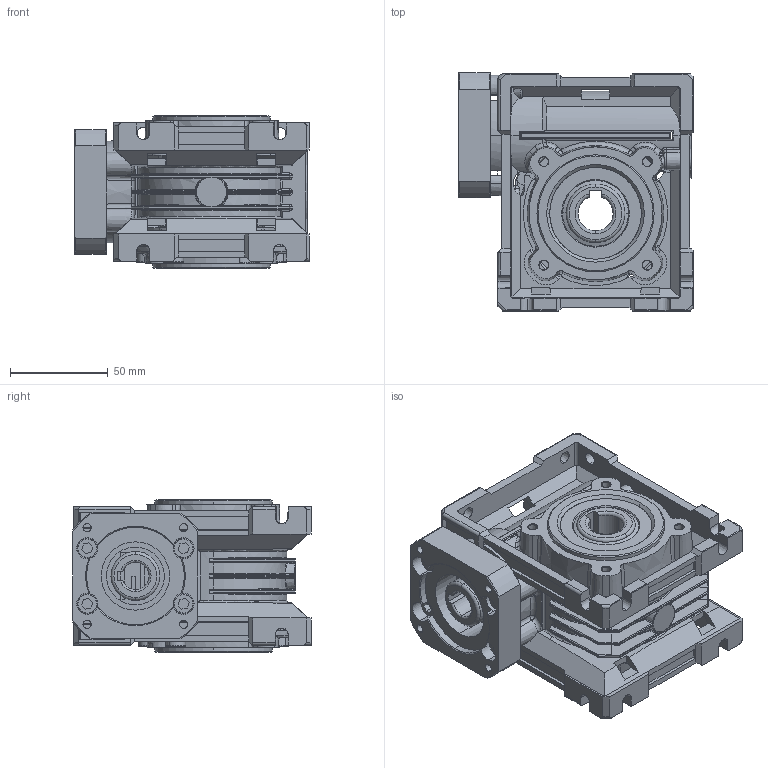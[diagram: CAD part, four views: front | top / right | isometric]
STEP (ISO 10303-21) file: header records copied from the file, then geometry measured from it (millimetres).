
FILE_DESCRIPTION (( 'STEP AP214' ), '1' );
FILE_NAME ('AF.00001406 Alleggerito.STEP', '2019-03-27T10:04:21', ( '' ), ( '' ), 'SwSTEP 2.0', 'SolidWorks 2018', '' );
FILE_SCHEMA (( 'AUTOMOTIVE_DESIGN' ));
Length unit declared in the file: millimetre
Products named in the file (1): AF.00001406 Alleggerito
Bounding box: 120 x 122 x 78 mm (x, y, z)
Surface area: 119578.3 mm2 (no closed solid volume)
Topology: 0 solids, 19 shells, 1244 faces, 3707 edges, 2404 vertices
Faces by surface type: plane 476, cylinder 254, bspline 216, cone 192, torus 93, sphere 13
Entity records: 66812 total; most frequent: CARTESIAN_POINT 23338, ORIENTED_EDGE 6824, DIRECTION 5280, EDGE_CURVE 3675, VERTEX_POINT 2404, AXIS2_PLACEMENT_3D 1864, VECTOR 1552, LINE 1552
